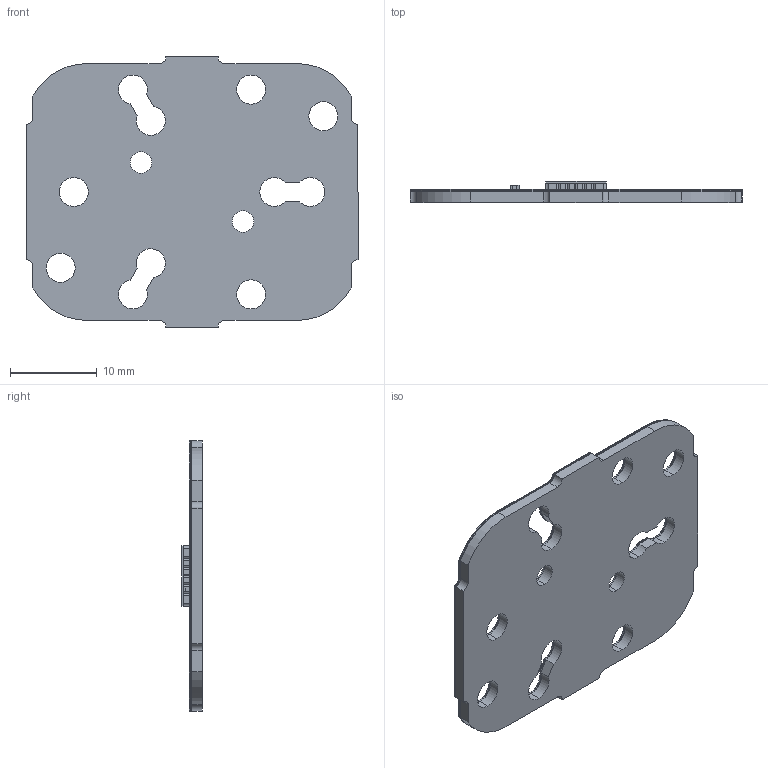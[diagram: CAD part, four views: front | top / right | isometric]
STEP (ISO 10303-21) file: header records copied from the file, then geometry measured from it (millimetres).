
FILE_DESCRIPTION (( 'STEP AP214' ), '1' );
FILE_NAME ('LZ7-N4xx00-P3_RevB.STEP', '2016-06-06T18:51:45', ( '' ), ( '' ), 'SwSTEP 2.0', 'SolidWorks 2014', '' );
FILE_SCHEMA (( 'AUTOMOTIVE_DESIGN' ));
Length unit declared in the file: millimetre
Products named in the file (4): 1900-0099-RBN_RevB; LZ7-N4xx00-P3_RevB; Murata_0402_NTC_cpt2_cpy-12-09-14_NTC(10K); LZ7-Emitter-P3_Assy(PART)_RevA_cpy_12-09-14
Assembly tree (3 placements, depth 2):
  LZ7-N4xx00-P3_RevB
    1900-0099-RBN_RevB
    LZ7-Emitter-P3_Assy(PART)_RevA_cpy_12-09-14
    Murata_0402_NTC_cpt2_cpy-12-09-14_NTC(10K)
Bounding box: 38.31 x 2.41 x 31.23 mm (x, y, z)
Volume: 1503.4 mm3; surface area: 6664.4 mm2
Topology: 99 solids, 99 shells, 1860 faces, 4818 edges, 3212 vertices
Faces by surface type: plane 1141, cylinder 489, bspline 230
Entity records: 86920 total; most frequent: CARTESIAN_POINT 22286, ORIENTED_EDGE 9636, DIRECTION 8608, EDGE_CURVE 4818, LINE 3380, VECTOR 3380, VERTEX_POINT 3212, AXIS2_PLACEMENT_3D 2614
